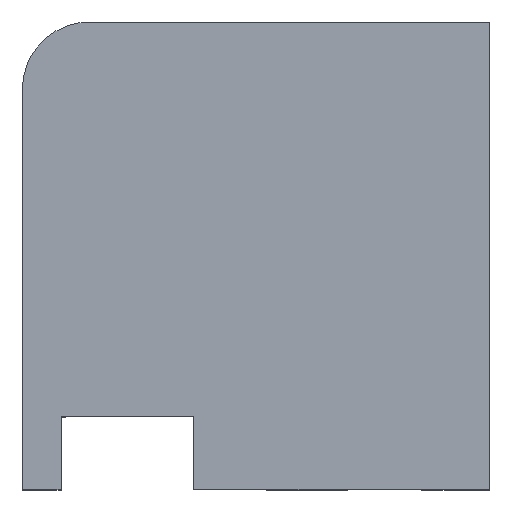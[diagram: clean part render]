
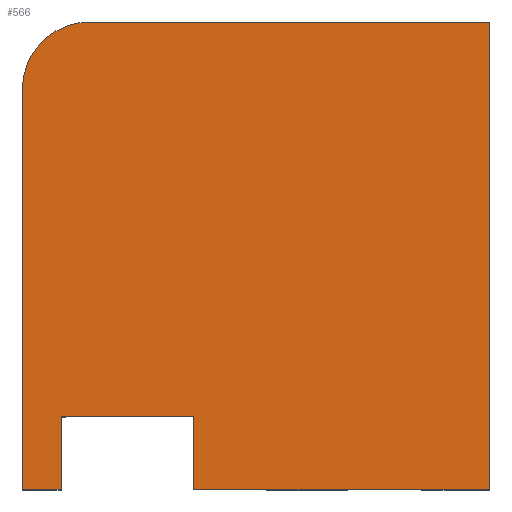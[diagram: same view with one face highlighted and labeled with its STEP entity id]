
A CAD part, top view. The second image highlights one B-rep face of the part: STEP entity #566.
In plain terms, the highlighted planar face has unit normal (0, 0, 1).
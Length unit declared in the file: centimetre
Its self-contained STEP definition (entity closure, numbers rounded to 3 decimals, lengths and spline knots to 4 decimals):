
#13 = DIRECTION ( 'NONE',  ( -1., 0., 0. ) ) ;
#34 = EDGE_CURVE ( 'NONE', #622, #756, #685, .T. ) ;
#37 = EDGE_CURVE ( 'NONE', #213, #970, #1007, .T. ) ;
#69 = CARTESIAN_POINT ( 'NONE',  ( 0., 0., 1000. ) ) ;
#104 = DIRECTION ( 'NONE',  ( 0., 0., 1. ) ) ;
#111 = VECTOR ( 'NONE', #201, 100. ) ;
#112 = LINE ( 'NONE', #823, #111 ) ;
#129 = ORIENTED_EDGE ( 'NONE', *, *, #178, .T. ) ;
#138 = DIRECTION ( 'NONE',  ( 0., 1., 0. ) ) ;
#139 = ORIENTED_EDGE ( 'NONE', *, *, #37, .T. ) ;
#149 = VECTOR ( 'NONE', #1036, 100. ) ;
#165 = VECTOR ( 'NONE', #532, 100. ) ;
#178 = EDGE_CURVE ( 'NONE', #780, #213, #680, .T. ) ;
#183 = LINE ( 'NONE', #190, #479 ) ;
#190 = CARTESIAN_POINT ( 'NONE',  ( 82.7206, 155.9378, 1000. ) ) ;
#201 = DIRECTION ( 'NONE',  ( 0., -1., 0. ) ) ;
#213 = VERTEX_POINT ( 'NONE', #461 ) ;
#233 = VECTOR ( 'NONE', #860, 100. ) ;
#242 = VERTEX_POINT ( 'NONE', #488 ) ;
#263 = PLANE ( 'NONE',  #577 ) ;
#269 = VERTEX_POINT ( 'NONE', #648 ) ;
#279 = CARTESIAN_POINT ( 'NONE',  ( 0., 0., 1000. ) ) ;
#303 = CARTESIAN_POINT ( 'NONE',  ( 0., 1000., 1000. ) ) ;
#312 = ORIENTED_EDGE ( 'NONE', *, *, #366, .T. ) ;
#327 = CARTESIAN_POINT ( 'NONE',  ( 1000., 1000., 1000. ) ) ;
#357 = FACE_OUTER_BOUND ( 'NONE', #779, .T. ) ;
#366 = EDGE_CURVE ( 'NONE', #756, #375, #883, .T. ) ;
#375 = VERTEX_POINT ( 'NONE', #964 ) ;
#377 = DIRECTION ( 'NONE',  ( 1., 0., 0. ) ) ;
#386 = VERTEX_POINT ( 'NONE', #553 ) ;
#391 = ORIENTED_EDGE ( 'NONE', *, *, #720, .F. ) ;
#402 = DIRECTION ( 'NONE',  ( 0., 1., 0. ) ) ;
#409 = VECTOR ( 'NONE', #546, 100. ) ;
#443 = ORIENTED_EDGE ( 'NONE', *, *, #923, .F. ) ;
#461 = CARTESIAN_POINT ( 'NONE',  ( 0., 856.3606, 1000. ) ) ;
#469 = CARTESIAN_POINT ( 'NONE',  ( 0., 1000., 1000. ) ) ;
#479 = VECTOR ( 'NONE', #13, 100. ) ;
#488 = CARTESIAN_POINT ( 'NONE',  ( 82.7206, 0., 1000. ) ) ;
#491 = CARTESIAN_POINT ( 'NONE',  ( 143.6394, 1000., 1000. ) ) ;
#522 = CARTESIAN_POINT ( 'NONE',  ( 0., 0., 1000. ) ) ;
#526 = CARTESIAN_POINT ( 'NONE',  ( 366.5969, 0., 1000. ) ) ;
#532 = DIRECTION ( 'NONE',  ( 1., 0., 0. ) ) ;
#546 = DIRECTION ( 'NONE',  ( -1., 0., 0. ) ) ;
#553 = CARTESIAN_POINT ( 'NONE',  ( 366.5969, 155.9378, 1000. ) ) ;
#566 = ADVANCED_FACE ( 'NONE', ( #357 ), #263, .T. ) ;
#577 = AXIS2_PLACEMENT_3D ( 'NONE', #279, #104, #995 ) ;
#587 = CARTESIAN_POINT ( 'NONE',  ( 1000., 0., 1000. ) ) ;
#600 = ORIENTED_EDGE ( 'NONE', *, *, #34, .T. ) ;
#622 = VERTEX_POINT ( 'NONE', #526 ) ;
#628 = EDGE_CURVE ( 'NONE', #375, #780, #856, .T. ) ;
#629 = ORIENTED_EDGE ( 'NONE', *, *, #628, .T. ) ;
#648 = CARTESIAN_POINT ( 'NONE',  ( 82.7206, 155.9378, 1000. ) ) ;
#655 = EDGE_CURVE ( 'NONE', #970, #242, #958, .T. ) ;
#663 = VECTOR ( 'NONE', #138, 100. ) ;
#680 = CIRCLE ( 'NONE', #882, 143.6394 ) ;
#685 = LINE ( 'NONE', #1020, #165 ) ;
#698 = DIRECTION ( 'NONE',  ( 0., 0., 1. ) ) ;
#720 = EDGE_CURVE ( 'NONE', #386, #269, #183, .T. ) ;
#756 = VERTEX_POINT ( 'NONE', #587 ) ;
#779 = EDGE_LOOP ( 'NONE', ( #827, #391, #443, #600, #312, #629, #129, #139, #800 ) ) ;
#780 = VERTEX_POINT ( 'NONE', #491 ) ;
#800 = ORIENTED_EDGE ( 'NONE', *, *, #655, .T. ) ;
#814 = EDGE_CURVE ( 'NONE', #269, #242, #112, .T. ) ;
#823 = CARTESIAN_POINT ( 'NONE',  ( 82.7206, 0., 1000. ) ) ;
#827 = ORIENTED_EDGE ( 'NONE', *, *, #814, .F. ) ;
#848 = CARTESIAN_POINT ( 'NONE',  ( 143.6394, 856.3606, 1000. ) ) ;
#853 = VECTOR ( 'NONE', #402, 100. ) ;
#856 = LINE ( 'NONE', #469, #409 ) ;
#858 = LINE ( 'NONE', #929, #663 ) ;
#860 = DIRECTION ( 'NONE',  ( 0., -1., 0. ) ) ;
#882 = AXIS2_PLACEMENT_3D ( 'NONE', #848, #698, #377 ) ;
#883 = LINE ( 'NONE', #327, #853 ) ;
#923 = EDGE_CURVE ( 'NONE', #622, #386, #858, .T. ) ;
#929 = CARTESIAN_POINT ( 'NONE',  ( 366.5969, 0., 1000. ) ) ;
#958 = LINE ( 'NONE', #69, #149 ) ;
#964 = CARTESIAN_POINT ( 'NONE',  ( 1000., 1000., 1000. ) ) ;
#970 = VERTEX_POINT ( 'NONE', #522 ) ;
#995 = DIRECTION ( 'NONE',  ( 1., 0., 0. ) ) ;
#1007 = LINE ( 'NONE', #303, #233 ) ;
#1020 = CARTESIAN_POINT ( 'NONE',  ( 0., 0., 1000. ) ) ;
#1036 = DIRECTION ( 'NONE',  ( 1., 0., 0. ) ) ;
